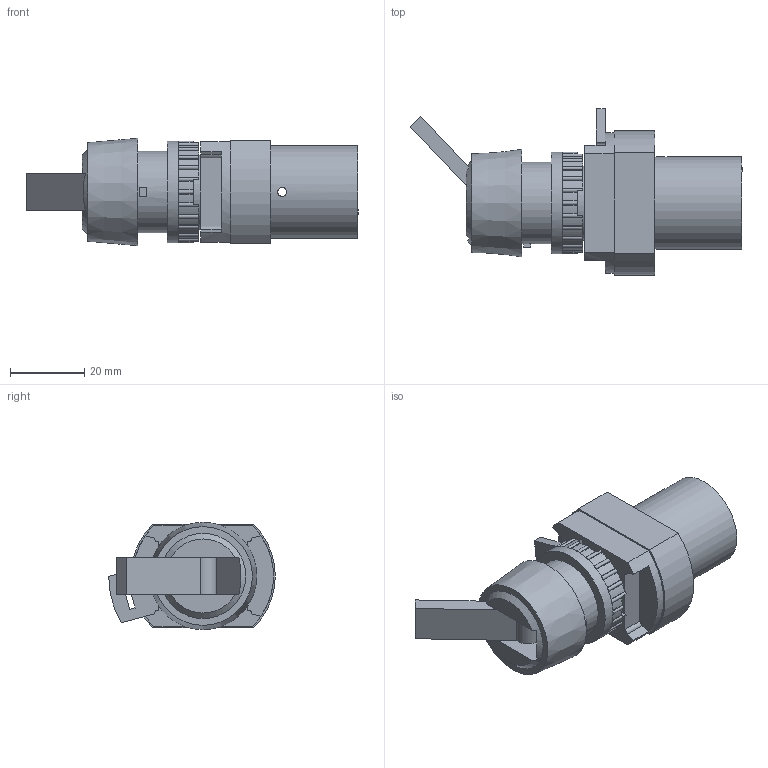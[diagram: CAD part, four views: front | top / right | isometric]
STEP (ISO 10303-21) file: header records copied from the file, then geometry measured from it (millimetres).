
FILE_DESCRIPTION (( 'STEP AP214' ), '1' );
FILE_NAME ('18-T-23-016---T-30-310_Airtec.step', '2018-11-15T13:13:26', ( '' ), ( '' ), 'SwSTEP 2.0', 'SolidWorks 2010', '' );
FILE_SCHEMA (( 'AUTOMOTIVE_DESIGN' ));
Length unit declared in the file: millimetre
Products named in the file (3): T-30-310-Airtec; 18-T-23-016-Airtec; 18-T-23-016---T-30-310_Airtec
Assembly tree (2 placements, depth 2):
  18-T-23-016---T-30-310_Airtec
    18-T-23-016-Airtec
    T-30-310-Airtec
Bounding box: 89.66 x 45 x 29 mm (x, y, z)
Volume: 43896.1 mm3; surface area: 13364.3 mm2
Topology: 2 solids, 2 shells, 265 faces, 720 edges, 470 vertices
Faces by surface type: plane 134, cylinder 125, cone 5, bspline 1
Full cylindrical faces by diameter (mm): 2.4 x1, 4.134 x2, 5 x1, 9 x1, 16 x1, 20 x1, 22 x1, 25 x1, 27.4 x1
Entity records: 8515 total; most frequent: DIRECTION 1549, CARTESIAN_POINT 1541, ORIENTED_EDGE 1392, EDGE_CURVE 696, AXIS2_PLACEMENT_3D 592, VERTEX_POINT 462, LINE 365, VECTOR 365
